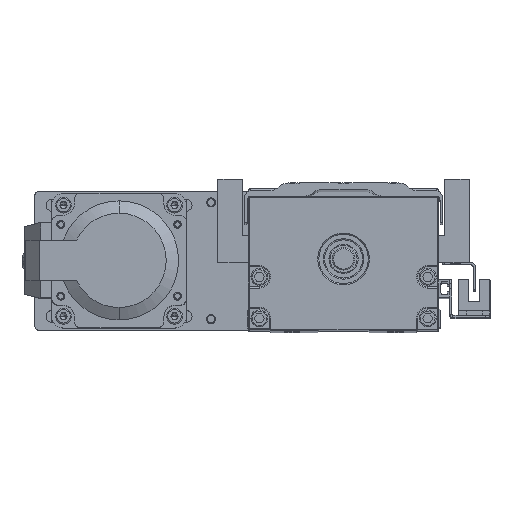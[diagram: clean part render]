
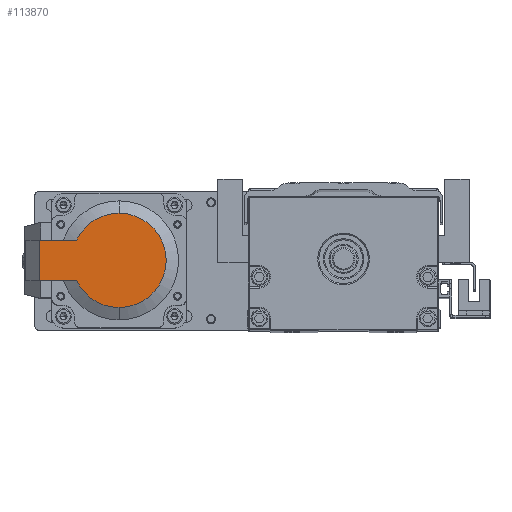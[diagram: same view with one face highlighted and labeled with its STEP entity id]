
A CAD part, top view. The second image highlights one B-rep face of the part: STEP entity #113870.
In plain terms, the highlighted planar face has unit normal (0, 0, 1).
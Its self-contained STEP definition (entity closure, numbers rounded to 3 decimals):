
#2957 = FACE_OUTER_BOUND ( 'NONE', #58711, .T. ) ;
#3489 = CARTESIAN_POINT ( 'NONE',  ( 104.751, 3.277, 500.168 ) ) ;
#7677 = VECTOR ( 'NONE', #85033, 1000. ) ;
#9258 = VERTEX_POINT ( 'NONE', #141866 ) ;
#24209 = ORIENTED_EDGE ( 'NONE', *, *, #27159, .F. ) ;
#26883 = EDGE_CURVE ( 'NONE', #95842, #105693, #83563, .T. ) ;
#27159 = EDGE_CURVE ( 'NONE', #89616, #9258, #59078, .T. ) ;
#28604 = DIRECTION ( 'NONE',  ( 0., 1., 0. ) ) ;
#29366 = CARTESIAN_POINT ( 'NONE',  ( 85.777, 12.277, 500.168 ) ) ;
#29667 = VECTOR ( 'NONE', #136426, 1000. ) ;
#29890 = CARTESIAN_POINT ( 'NONE',  ( 121.36, 3.277, 500.168 ) ) ;
#38702 = CARTESIAN_POINT ( 'NONE',  ( 85.777, -8.723, 500.168 ) ) ;
#38886 = EDGE_CURVE ( 'NONE', #67265, #88433, #84026, .T. ) ;
#40455 = DIRECTION ( 'NONE',  ( 0., 0., 1. ) ) ;
#40693 = DIRECTION ( 'NONE',  ( 0., 0., 1. ) ) ;
#41032 = EDGE_CURVE ( 'NONE', #67265, #89616, #142261, .T. ) ;
#44787 = CARTESIAN_POINT ( 'NONE',  ( 121.36, 21.277, 500.168 ) ) ;
#46852 = ORIENTED_EDGE ( 'NONE', *, *, #70009, .T. ) ;
#49033 = LINE ( 'NONE', #29890, #7677 ) ;
#58711 = EDGE_LOOP ( 'NONE', ( #79449, #67495, #61510, #112151, #46852, #24209 ) ) ;
#59078 = LINE ( 'NONE', #115160, #29667 ) ;
#61510 = ORIENTED_EDGE ( 'NONE', *, *, #80994, .T. ) ;
#62793 = DIRECTION ( 'NONE',  ( 0., 1., 0. ) ) ;
#63445 = DIRECTION ( 'NONE',  ( 0., 0., 1. ) ) ;
#67265 = VERTEX_POINT ( 'NONE', #108433 ) ;
#67495 = ORIENTED_EDGE ( 'NONE', *, *, #38886, .T. ) ;
#70009 = EDGE_CURVE ( 'NONE', #105693, #9258, #49033, .T. ) ;
#70756 = DIRECTION ( 'NONE',  ( 0., 0., 1. ) ) ;
#71618 = AXIS2_PLACEMENT_3D ( 'NONE', #29366, #40455, #62793 ) ;
#73685 = DIRECTION ( 'NONE',  ( 0., 1., 0. ) ) ;
#76898 = DIRECTION ( 'NONE',  ( 1., 0., 0. ) ) ;
#79449 = ORIENTED_EDGE ( 'NONE', *, *, #41032, .F. ) ;
#80464 = AXIS2_PLACEMENT_3D ( 'NONE', #96332, #63445, #85686 ) ;
#80994 = EDGE_CURVE ( 'NONE', #88433, #95842, #105331, .T. ) ;
#83563 = CIRCLE ( 'NONE', #124353, 21. ) ;
#83793 = PLANE ( 'NONE',  #121096 ) ;
#84026 = CIRCLE ( 'NONE', #71618, 21. ) ;
#85033 = DIRECTION ( 'NONE',  ( 1., 0., 0. ) ) ;
#85686 = DIRECTION ( 'NONE',  ( 0., 1., 0. ) ) ;
#88433 = VERTEX_POINT ( 'NONE', #122653 ) ;
#89616 = VERTEX_POINT ( 'NONE', #138685 ) ;
#95842 = VERTEX_POINT ( 'NONE', #38702 ) ;
#96332 = CARTESIAN_POINT ( 'NONE',  ( 85.777, 12.277, 500.168 ) ) ;
#100753 = VECTOR ( 'NONE', #76898, 1000. ) ;
#105331 = CIRCLE ( 'NONE', #80464, 21. ) ;
#105693 = VERTEX_POINT ( 'NONE', #3489 ) ;
#107021 = CARTESIAN_POINT ( 'NONE',  ( 85.777, 12.277, 500.168 ) ) ;
#108433 = CARTESIAN_POINT ( 'NONE',  ( 104.751, 21.277, 500.168 ) ) ;
#112151 = ORIENTED_EDGE ( 'NONE', *, *, #26883, .T. ) ;
#113870 = ADVANCED_FACE ( 'NONE', ( #2957 ), #83793, .T. ) ;
#115160 = CARTESIAN_POINT ( 'NONE',  ( 121.36, 21.277, 500.168 ) ) ;
#121096 = AXIS2_PLACEMENT_3D ( 'NONE', #137982, #70756, #28604 ) ;
#122653 = CARTESIAN_POINT ( 'NONE',  ( 85.777, 33.277, 500.168 ) ) ;
#124353 = AXIS2_PLACEMENT_3D ( 'NONE', #107021, #40693, #73685 ) ;
#136426 = DIRECTION ( 'NONE',  ( 0., -1., 0. ) ) ;
#137982 = CARTESIAN_POINT ( 'NONE',  ( 85.777, 33.277, 500.168 ) ) ;
#138685 = CARTESIAN_POINT ( 'NONE',  ( 121.36, 21.277, 500.168 ) ) ;
#141866 = CARTESIAN_POINT ( 'NONE',  ( 121.36, 3.277, 500.168 ) ) ;
#142261 = LINE ( 'NONE', #44787, #100753 ) ;
